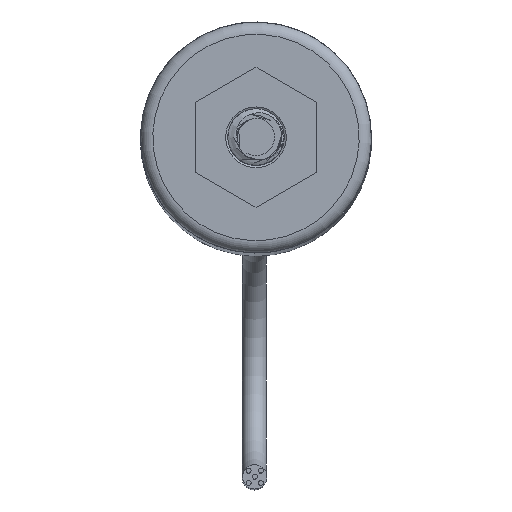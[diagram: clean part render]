
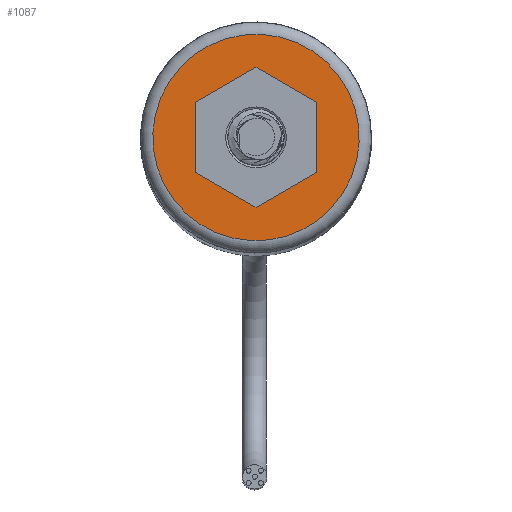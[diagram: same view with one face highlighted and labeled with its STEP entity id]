
A CAD part, top view. The second image highlights one B-rep face of the part: STEP entity #1087.
In plain terms, the highlighted planar face has unit normal (0, 0, 1).
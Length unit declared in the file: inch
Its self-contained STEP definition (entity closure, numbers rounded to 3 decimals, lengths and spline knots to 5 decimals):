
#68=FACE_BOUND('',#205,.T.);
#85=PLANE('',#1339);
#130=FACE_OUTER_BOUND('',#204,.T.);
#204=EDGE_LOOP('',(#750));
#205=EDGE_LOOP('',(#751));
#384=CIRCLE('',#1334,0.1675);
#388=CIRCLE('',#1340,0.0625);
#471=VERTEX_POINT('',#1906);
#474=VERTEX_POINT('',#1916);
#573=EDGE_CURVE('',#471,#471,#384,.T.);
#578=EDGE_CURVE('',#474,#474,#388,.T.);
#750=ORIENTED_EDGE('',*,*,#573,.F.);
#751=ORIENTED_EDGE('',*,*,#578,.T.);
#1087=ADVANCED_FACE('',(#130,#68),#85,.T.);
#1334=AXIS2_PLACEMENT_3D('',#1907,#1529,#1530);
#1339=AXIS2_PLACEMENT_3D('',#1915,#1540,#1541);
#1340=AXIS2_PLACEMENT_3D('',#1917,#1542,#1543);
#1529=DIRECTION('center_axis',(0.,0.,
-1.));
#1530=DIRECTION('ref_axis',(-0.788,-0.615,0.));
#1540=DIRECTION('center_axis',(0.,0.,
1.));
#1541=DIRECTION('ref_axis',(0.788,0.615,0.));
#1542=DIRECTION('center_axis',(0.,0.,
-1.));
#1543=DIRECTION('ref_axis',(0.788,0.615,0.));
#1906=CARTESIAN_POINT('',(-0.13203,-0.10308,0.029));
#1907=CARTESIAN_POINT('Origin',(0.,0.,
0.029));
#1915=CARTESIAN_POINT('Origin',(0.,0.,
0.029));
#1916=CARTESIAN_POINT('',(-0.04926,-0.03846,0.029));
#1917=CARTESIAN_POINT('Origin',(0.,0.,
0.029));
